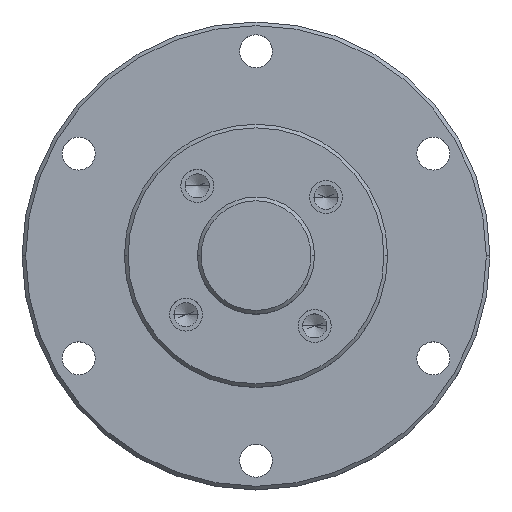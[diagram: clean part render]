
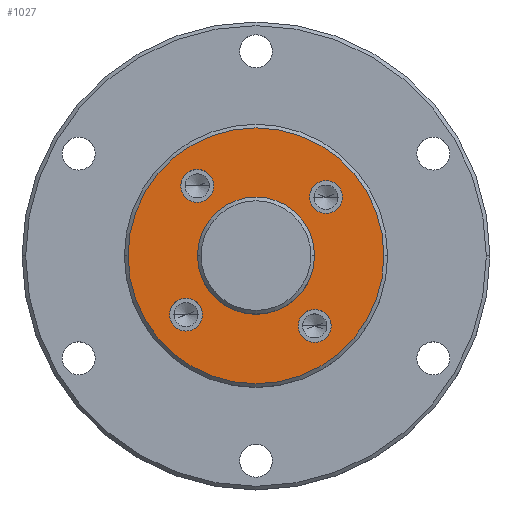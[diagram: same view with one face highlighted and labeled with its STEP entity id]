
A CAD part, top view. The second image highlights one B-rep face of the part: STEP entity #1027.
In plain terms, the highlighted planar face has unit normal (0, 0, 1).
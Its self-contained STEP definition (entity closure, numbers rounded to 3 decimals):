
#41 = DIRECTION ( 'NONE',  ( 1., 0., 0. ) ) ;
#43 = CARTESIAN_POINT ( 'NONE',  ( 0., 0., 0. ) ) ;
#55 = EDGE_LOOP ( 'NONE', ( #3265, #2319 ) ) ;
#101 = EDGE_CURVE ( 'NONE', #812, #693, #1676, .T. ) ;
#166 = PLANE ( 'NONE',  #1085 ) ;
#169 = DIRECTION ( 'NONE',  ( 0., 0., 1. ) ) ;
#290 = AXIS2_PLACEMENT_3D ( 'NONE', #3469, #1083, #3886 ) ;
#383 = DIRECTION ( 'NONE',  ( 0., 0., 1. ) ) ;
#399 = EDGE_LOOP ( 'NONE', ( #1621, #4482 ) ) ;
#453 = VERTEX_POINT ( 'NONE', #774 ) ;
#467 = DIRECTION ( 'NONE',  ( 1., 0., 0. ) ) ;
#494 = EDGE_CURVE ( 'NONE', #982, #4268, #3113, .T. ) ;
#508 = DIRECTION ( 'NONE',  ( 0., 0., 1. ) ) ;
#584 = CARTESIAN_POINT ( 'NONE',  ( 0., 18., 0. ) ) ;
#596 = CARTESIAN_POINT ( 'NONE',  ( 17.5, 0., 0. ) ) ;
#601 = CARTESIAN_POINT ( 'NONE',  ( -5.785, 9.576, 0. ) ) ;
#693 = VERTEX_POINT ( 'NONE', #4264 ) ;
#695 = CIRCLE ( 'NONE', #1480, 2.25 ) ;
#740 = CIRCLE ( 'NONE', #4224, 2.25 ) ;
#757 = CARTESIAN_POINT ( 'NONE',  ( -8.035, 9.576, 0. ) ) ;
#774 = CARTESIAN_POINT ( 'NONE',  ( 5.785, -9.576, 0. ) ) ;
#812 = VERTEX_POINT ( 'NONE', #1133 ) ;
#946 = CARTESIAN_POINT ( 'NONE',  ( -8.035, 9.576, 0. ) ) ;
#967 = CARTESIAN_POINT ( 'NONE',  ( -9.576, -8.035, 0. ) ) ;
#982 = VERTEX_POINT ( 'NONE', #4846 ) ;
#990 = EDGE_CURVE ( 'NONE', #3254, #4367, #2044, .T. ) ;
#1027 = ADVANCED_FACE ( 'NONE', ( #1998, #2117, #2057, #2063, #2185, #2240 ), #166, .F. ) ;
#1083 = DIRECTION ( 'NONE',  ( 0., 0., 1. ) ) ;
#1085 = AXIS2_PLACEMENT_3D ( 'NONE', #584, #1384, #4197 ) ;
#1133 = CARTESIAN_POINT ( 'NONE',  ( 8., 0., 0. ) ) ;
#1150 = DIRECTION ( 'NONE',  ( 1., 0., 0. ) ) ;
#1170 = CARTESIAN_POINT ( 'NONE',  ( 9.576, 8.035, 0. ) ) ;
#1202 = CARTESIAN_POINT ( 'NONE',  ( -9.576, -8.035, 0. ) ) ;
#1295 = CARTESIAN_POINT ( 'NONE',  ( 11.826, 8.035, 0. ) ) ;
#1306 = AXIS2_PLACEMENT_3D ( 'NONE', #1170, #3991, #1583 ) ;
#1343 = DIRECTION ( 'NONE',  ( 1., 0., 0. ) ) ;
#1347 = AXIS2_PLACEMENT_3D ( 'NONE', #1202, #4018, #1608 ) ;
#1359 = DIRECTION ( 'NONE',  ( 1., 0., 0. ) ) ;
#1365 = CIRCLE ( 'NONE', #1347, 2.25 ) ;
#1384 = DIRECTION ( 'NONE',  ( 0., 0., -1. ) ) ;
#1454 = VERTEX_POINT ( 'NONE', #2422 ) ;
#1474 = CARTESIAN_POINT ( 'NONE',  ( -7.326, -8.035, 0. ) ) ;
#1480 = AXIS2_PLACEMENT_3D ( 'NONE', #757, #3541, #1150 ) ;
#1571 = ORIENTED_EDGE ( 'NONE', *, *, #4633, .F. ) ;
#1583 = DIRECTION ( 'NONE',  ( 1., 0., 0. ) ) ;
#1603 = EDGE_CURVE ( 'NONE', #453, #4733, #4282, .T. ) ;
#1608 = DIRECTION ( 'NONE',  ( 1., 0., 0. ) ) ;
#1621 = ORIENTED_EDGE ( 'NONE', *, *, #1901, .F. ) ;
#1676 = CIRCLE ( 'NONE', #4296, 8. ) ;
#1802 = AXIS2_PLACEMENT_3D ( 'NONE', #967, #3756, #1359 ) ;
#1901 = EDGE_CURVE ( 'NONE', #4367, #3254, #1365, .T. ) ;
#1959 = CARTESIAN_POINT ( 'NONE',  ( 8.035, -9.576, 0. ) ) ;
#1998 = FACE_BOUND ( 'NONE', #3729, .T. ) ;
#2007 = CIRCLE ( 'NONE', #3082, 8. ) ;
#2023 = EDGE_CURVE ( 'NONE', #693, #812, #2007, .T. ) ;
#2044 = CIRCLE ( 'NONE', #1802, 2.25 ) ;
#2056 = EDGE_CURVE ( 'NONE', #1454, #3525, #695, .T. ) ;
#2057 = FACE_BOUND ( 'NONE', #4082, .T. ) ;
#2063 = FACE_BOUND ( 'NONE', #3881, .T. ) ;
#2080 = AXIS2_PLACEMENT_3D ( 'NONE', #1959, #4802, #2357 ) ;
#2117 = FACE_OUTER_BOUND ( 'NONE', #55, .T. ) ;
#2185 = FACE_BOUND ( 'NONE', #2862, .T. ) ;
#2240 = FACE_BOUND ( 'NONE', #399, .T. ) ;
#2314 = CIRCLE ( 'NONE', #1306, 2.25 ) ;
#2319 = ORIENTED_EDGE ( 'NONE', *, *, #2594, .T. ) ;
#2357 = DIRECTION ( 'NONE',  ( 1., 0., 0. ) ) ;
#2422 = CARTESIAN_POINT ( 'NONE',  ( -10.285, 9.576, 0. ) ) ;
#2441 = DIRECTION ( 'NONE',  ( 0., 0., 1. ) ) ;
#2478 = ORIENTED_EDGE ( 'NONE', *, *, #2056, .F. ) ;
#2568 = CARTESIAN_POINT ( 'NONE',  ( 0., 0., 0. ) ) ;
#2594 = EDGE_CURVE ( 'NONE', #4268, #982, #4919, .T. ) ;
#2639 = CARTESIAN_POINT ( 'NONE',  ( -11.826, -8.035, 0. ) ) ;
#2779 = CARTESIAN_POINT ( 'NONE',  ( 0., 0., 0. ) ) ;
#2853 = DIRECTION ( 'NONE',  ( 0., 0., 1. ) ) ;
#2862 = EDGE_LOOP ( 'NONE', ( #2938, #4913 ) ) ;
#2897 = CARTESIAN_POINT ( 'NONE',  ( 9.576, 8.035, 0. ) ) ;
#2938 = ORIENTED_EDGE ( 'NONE', *, *, #4525, .F. ) ;
#2968 = DIRECTION ( 'NONE',  ( 1., 0., 0. ) ) ;
#2974 = CARTESIAN_POINT ( 'NONE',  ( 10.285, -9.576, 0. ) ) ;
#3026 = VERTEX_POINT ( 'NONE', #1295 ) ;
#3082 = AXIS2_PLACEMENT_3D ( 'NONE', #43, #2853, #467 ) ;
#3113 = CIRCLE ( 'NONE', #290, 17.5 ) ;
#3163 = DIRECTION ( 'NONE',  ( -1., 0., 0. ) ) ;
#3223 = AXIS2_PLACEMENT_3D ( 'NONE', #2779, #383, #3163 ) ;
#3254 = VERTEX_POINT ( 'NONE', #2639 ) ;
#3265 = ORIENTED_EDGE ( 'NONE', *, *, #494, .T. ) ;
#3289 = DIRECTION ( 'NONE',  ( 1., 0., 0. ) ) ;
#3469 = CARTESIAN_POINT ( 'NONE',  ( 0., 0., 0. ) ) ;
#3525 = VERTEX_POINT ( 'NONE', #601 ) ;
#3541 = DIRECTION ( 'NONE',  ( 0., 0., 1. ) ) ;
#3729 = EDGE_LOOP ( 'NONE', ( #4340, #3820 ) ) ;
#3730 = DIRECTION ( 'NONE',  ( 0., 0., 1. ) ) ;
#3756 = DIRECTION ( 'NONE',  ( 0., 0., 1. ) ) ;
#3820 = ORIENTED_EDGE ( 'NONE', *, *, #2023, .F. ) ;
#3872 = ORIENTED_EDGE ( 'NONE', *, *, #4032, .F. ) ;
#3881 = EDGE_LOOP ( 'NONE', ( #1571, #3872 ) ) ;
#3886 = DIRECTION ( 'NONE',  ( -1., 0., 0. ) ) ;
#3991 = DIRECTION ( 'NONE',  ( 0., 0., 1. ) ) ;
#4016 = ORIENTED_EDGE ( 'NONE', *, *, #4132, .F. ) ;
#4018 = DIRECTION ( 'NONE',  ( 0., 0., 1. ) ) ;
#4032 = EDGE_CURVE ( 'NONE', #4130, #3026, #2314, .T. ) ;
#4056 = AXIS2_PLACEMENT_3D ( 'NONE', #2897, #508, #3289 ) ;
#4082 = EDGE_LOOP ( 'NONE', ( #4016, #2478 ) ) ;
#4130 = VERTEX_POINT ( 'NONE', #4152 ) ;
#4132 = EDGE_CURVE ( 'NONE', #3525, #1454, #4169, .T. ) ;
#4152 = CARTESIAN_POINT ( 'NONE',  ( 7.326, 8.035, 0. ) ) ;
#4169 = CIRCLE ( 'NONE', #5061, 2.25 ) ;
#4197 = DIRECTION ( 'NONE',  ( -1., 0., 0. ) ) ;
#4224 = AXIS2_PLACEMENT_3D ( 'NONE', #4883, #2441, #41 ) ;
#4257 = CIRCLE ( 'NONE', #4056, 2.25 ) ;
#4264 = CARTESIAN_POINT ( 'NONE',  ( -8., 0., 0. ) ) ;
#4268 = VERTEX_POINT ( 'NONE', #596 ) ;
#4282 = CIRCLE ( 'NONE', #2080, 2.25 ) ;
#4296 = AXIS2_PLACEMENT_3D ( 'NONE', #2568, #169, #2968 ) ;
#4340 = ORIENTED_EDGE ( 'NONE', *, *, #101, .F. ) ;
#4367 = VERTEX_POINT ( 'NONE', #1474 ) ;
#4482 = ORIENTED_EDGE ( 'NONE', *, *, #990, .F. ) ;
#4525 = EDGE_CURVE ( 'NONE', #4733, #453, #740, .T. ) ;
#4633 = EDGE_CURVE ( 'NONE', #3026, #4130, #4257, .T. ) ;
#4733 = VERTEX_POINT ( 'NONE', #2974 ) ;
#4802 = DIRECTION ( 'NONE',  ( 0., 0., 1. ) ) ;
#4846 = CARTESIAN_POINT ( 'NONE',  ( -17.5, 0., 0. ) ) ;
#4883 = CARTESIAN_POINT ( 'NONE',  ( 8.035, -9.576, 0. ) ) ;
#4913 = ORIENTED_EDGE ( 'NONE', *, *, #1603, .F. ) ;
#4919 = CIRCLE ( 'NONE', #3223, 17.5 ) ;
#5061 = AXIS2_PLACEMENT_3D ( 'NONE', #946, #3730, #1343 ) ;
